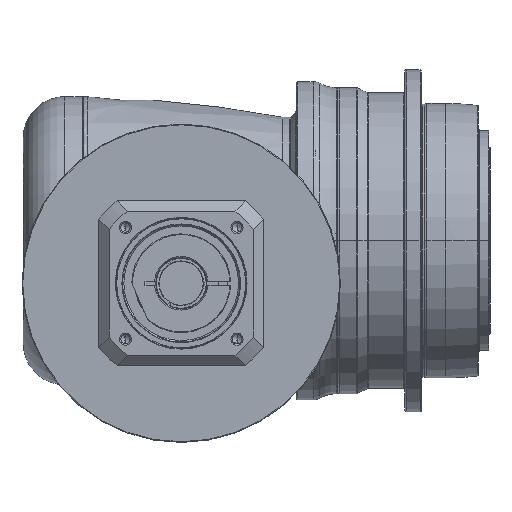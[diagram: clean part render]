
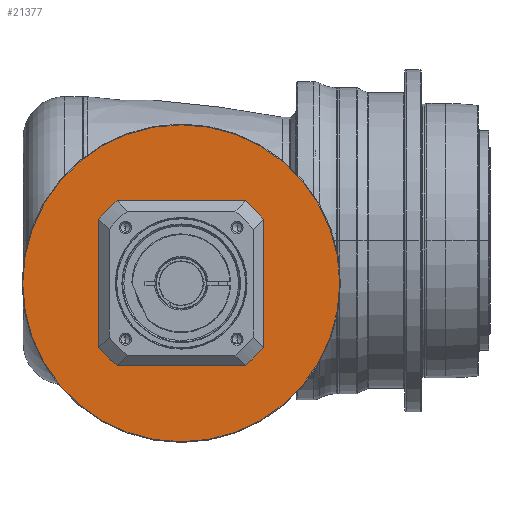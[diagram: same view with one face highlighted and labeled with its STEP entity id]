
A CAD part, front view. The second image highlights one B-rep face of the part: STEP entity #21377.
In plain terms, the highlighted planar face has unit normal (0, -1, 0) as drawn and (1, 0, 0) by its records, which use the part's own axes.
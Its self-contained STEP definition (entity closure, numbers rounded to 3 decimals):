
#20008=CARTESIAN_POINT('',(-4.5,0.,0.));
#20009=DIRECTION('',(-1.,0.,0.));
#20010=DIRECTION('',(0.,-1.,0.));
#20011=AXIS2_PLACEMENT_3D('',#20008,#20009,#20010);
#20013=CARTESIAN_POINT('',(-4.5,0.,0.));
#20014=DIRECTION('',(-1.,0.,0.));
#20015=DIRECTION('',(0.,1.,0.));
#20016=AXIS2_PLACEMENT_3D('',#20013,#20014,#20015);
#20018=CARTESIAN_POINT('',(-4.5,0.,0.));
#20019=DIRECTION('',(-1.,0.,0.));
#20020=DIRECTION('',(0.,-1.,0.));
#20021=AXIS2_PLACEMENT_3D('',#20018,#20019,#20020);
#20023=CARTESIAN_POINT('',(-4.5,0.,0.));
#20024=DIRECTION('',(-1.,0.,0.));
#20025=DIRECTION('',(0.,1.,0.));
#20026=AXIS2_PLACEMENT_3D('',#20023,#20024,#20025);
#20315=CARTESIAN_POINT('',(-4.5,-115.5,0.));
#20316=CARTESIAN_POINT('',(-4.5,115.5,0.));
#20317=VERTEX_POINT('',#20315);
#20318=VERTEX_POINT('',#20316);
#20373=CARTESIAN_POINT('',(-4.5,-59.75,0.));
#20374=CARTESIAN_POINT('',(-4.5,59.75,0.));
#20375=VERTEX_POINT('',#20373);
#20376=VERTEX_POINT('',#20374);
#21362=CARTESIAN_POINT('',(-4.5,0.,0.));
#21363=DIRECTION('',(1.,0.,0.));
#21364=DIRECTION('',(0.,-1.,0.));
#21365=AXIS2_PLACEMENT_3D('',#21362,#21363,#21364);
#21366=PLANE('',#21365);
#21367=ORIENTED_EDGE('',*,*,#21318,.T.);
#21368=ORIENTED_EDGE('',*,*,#21303,.T.);
#21369=EDGE_LOOP('',(#21367,#21368));
#21370=FACE_OUTER_BOUND('',#21369,.F.);
#21372=ORIENTED_EDGE('',*,*,#21371,.F.);
#21374=ORIENTED_EDGE('',*,*,#21373,.F.);
#21375=EDGE_LOOP('',(#21372,#21374));
#21376=FACE_BOUND('',#21375,.F.);
#21377=ADVANCED_FACE('',(#21370,#21376),#21366,.T.);
#20012=CIRCLE('',#20011,59.75);
#20017=CIRCLE('',#20016,59.75);
#20022=CIRCLE('',#20021,115.5);
#20027=CIRCLE('',#20026,115.5);
#21303=EDGE_CURVE('',#20318,#20317,#20027,.T.);
#21318=EDGE_CURVE('',#20317,#20318,#20022,.T.);
#21371=EDGE_CURVE('',#20375,#20376,#20012,.T.);
#21373=EDGE_CURVE('',#20376,#20375,#20017,.T.);
